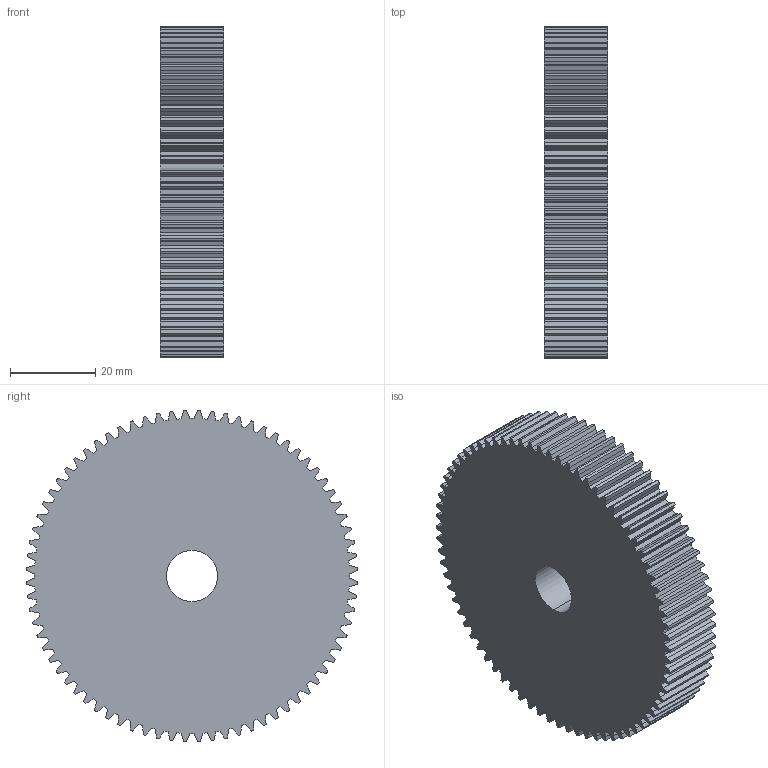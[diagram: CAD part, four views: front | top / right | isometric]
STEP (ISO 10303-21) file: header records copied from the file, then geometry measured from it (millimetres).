
FILE_DESCRIPTION (( 'STEP AP203' ), '1' );
FILE_NAME ('CM 26076.STEP', '2013-09-23T08:58:43', ( '' ), ( '' ), 'SwSTEP 2.0', 'SolidWorks 2010', '' );
FILE_SCHEMA (( 'CONFIG_CONTROL_DESIGN' ));
Length unit declared in the file: millimetre
Products named in the file (1): CM 26076
Bounding box: 15 x 77.96 x 77.96 mm (x, y, z)
Volume: 65952.5 mm3; surface area: 16130.7 mm2
Topology: 1 solids, 1 shells, 460 faces, 1374 edges, 916 vertices
Faces by surface type: plane 306, cylinder 154
Entity records: 15527 total; most frequent: CARTESIAN_POINT 2751, ORIENTED_EDGE 2748, DIRECTION 2604, EDGE_CURVE 1374, LINE 1066, VECTOR 1066, VERTEX_POINT 916, AXIS2_PLACEMENT_3D 769
